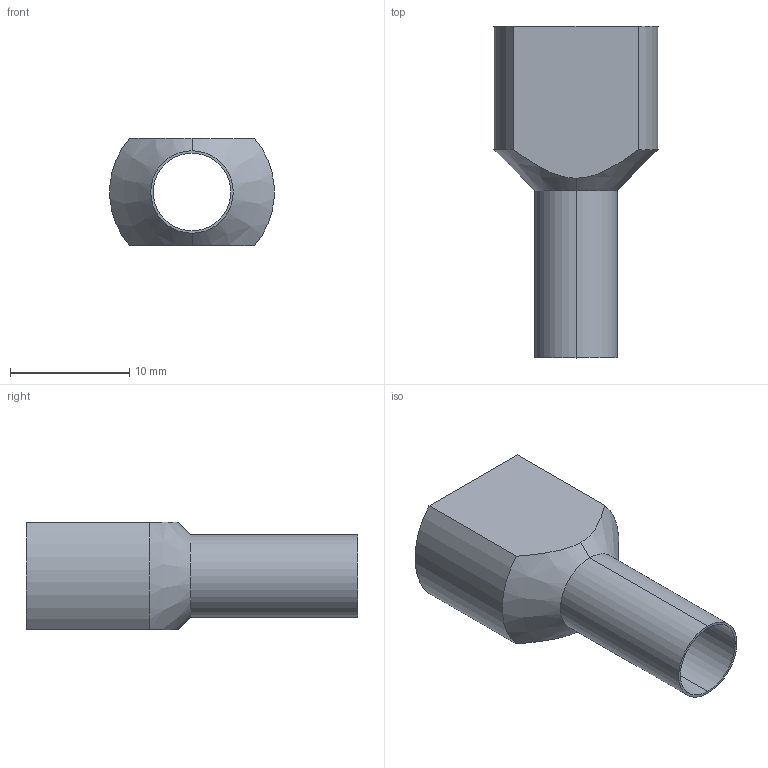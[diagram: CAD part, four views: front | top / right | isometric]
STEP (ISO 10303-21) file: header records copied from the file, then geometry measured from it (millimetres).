
FILE_DESCRIPTION (( 'STEP AP214' ), '1' );
FILE_NAME ('278053 OptiKit T-Shv2-PVC-10-14.STEP', '2020-02-19T10:29:09', ( '' ), ( '' ), 'SwSTEP 2.0', 'SolidWorks 2018', '' );
FILE_SCHEMA (( 'AUTOMOTIVE_DESIGN' ));
Length unit declared in the file: millimetre
Products named in the file (1): 278053 OptiKit T-Shv2-PVC-10-14
Bounding box: 13.76 x 27.8 x 9 mm (x, y, z)
Volume: 169 mm3; surface area: 1702.3 mm2
Topology: 1 solids, 1 shells, 18 faces, 44 edges, 28 vertices
Faces by surface type: cylinder 8, plane 6, cone 4
Entity records: 844 total; most frequent: CARTESIAN_POINT 183, DIRECTION 90, ORIENTED_EDGE 88, EDGE_CURVE 44, AXIS2_PLACEMENT_3D 35, VERTEX_POINT 28, UNCERTAINTY_MEASURE_WITH_UNIT 21, LINE 20
